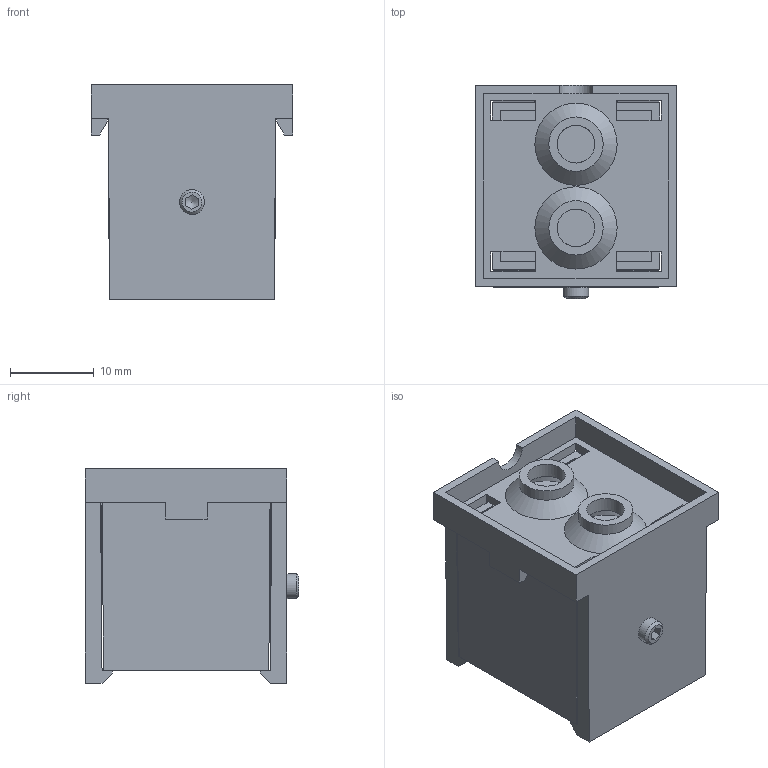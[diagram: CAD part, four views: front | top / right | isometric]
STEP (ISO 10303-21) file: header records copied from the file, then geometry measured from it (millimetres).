
FILE_DESCRIPTION((''),'2;1');
FILE_NAME('E:\Vault Daten\Projektordner\Sensoren\PSEN mag M12\Kundendaten\H302976_A24x24x25.6mm.stp','2011-08-29T11:25:21',('pschmucki'),(''),'Autodesk Inventor 2010','Autodesk Inventor 2010','');
FILE_SCHEMA(('CONFIG_CONTROL_DESIGN'));
Length unit declared in the file: millimetre
Products named in the file (1): H302976_PSENma_x.3_Betaetiger_Wuerfel_Kundendaten
Bounding box: 24.1 x 25.5 x 25.6 mm (x, y, z)
Volume: 10446 mm3; surface area: 6330.5 mm2
Topology: 1 solids, 1 shells, 149 faces, 416 edges, 268 vertices
Faces by surface type: plane 108, bspline 31, cylinder 8, cone 2
Full cylindrical faces by diameter (mm): 1.067 x1, 3 x2
Entity records: 4761 total; most frequent: CARTESIAN_POINT 1041, ORIENTED_EDGE 794, DIRECTION 662, EDGE_CURVE 397, VECTOR 358, LINE 358, VERTEX_POINT 263, EDGE_LOOP 182
